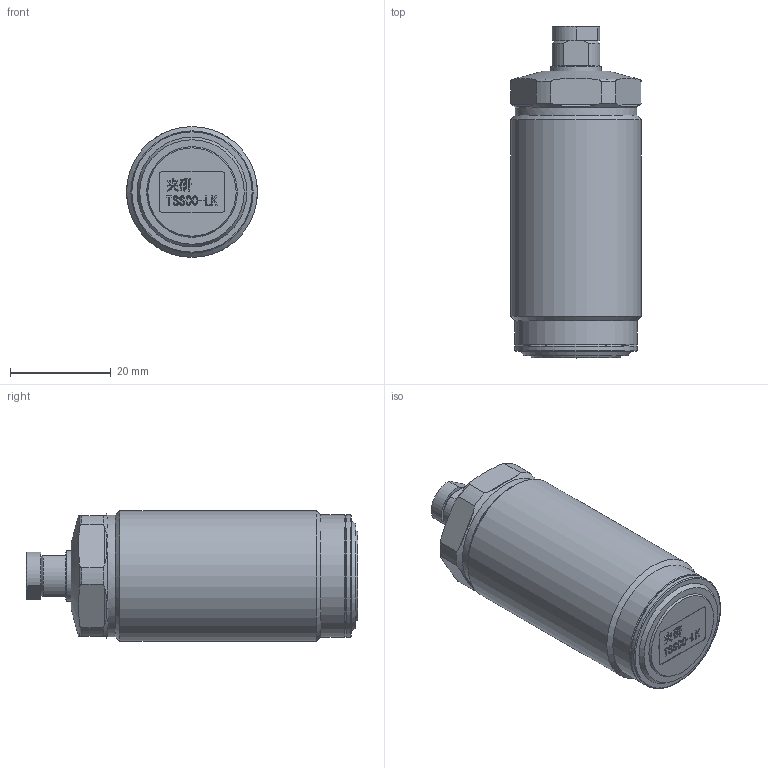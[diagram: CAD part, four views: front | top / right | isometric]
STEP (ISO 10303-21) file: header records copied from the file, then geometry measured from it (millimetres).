
FILE_DESCRIPTION(/* description */ (''),/* implementation_level */ '2;1');
FILE_NAME(/* name */ 'TSS00-LK.stp',/* time_stamp */ '2022-05-04T14:38:15+08:00',/* author */ (''),/* organization */ (''),/* preprocessor_version */ 'ST-DEVELOPER v16.7',/* originating_system */ 'SIEMENS PLM Software NX 12.0',/* authorisation */ '');
FILE_SCHEMA (('AUTOMOTIVE_DESIGN { 1 0 10303 214 3 1 1 1 }'));
Length unit declared in the file: millimetre
Products named in the file (1): _model1
Bounding box: 26 x 65.96 x 26 mm (x, y, z)
Volume: 29282.8 mm3; surface area: 7864.1 mm2
Topology: 3 solids, 3 shells, 255 faces, 654 edges, 429 vertices
Faces by surface type: plane 136, extrusion 62, cylinder 31, torus 13, cone 12, sphere 1
Full cylindrical faces by diameter (mm): 3.5 x1, 4.5 x1, 6 x2, 7.3 x1, 10 x2, 24.2 x1, 24.3 x2, 26 x1
Entity records: 10095 total; most frequent: CARTESIAN_POINT 3070, ORIENTED_EDGE 1236, DIRECTION 979, EDGE_CURVE 618, VECTOR 429, VERTEX_POINT 425, LINE 367, EDGE_LOOP 311
